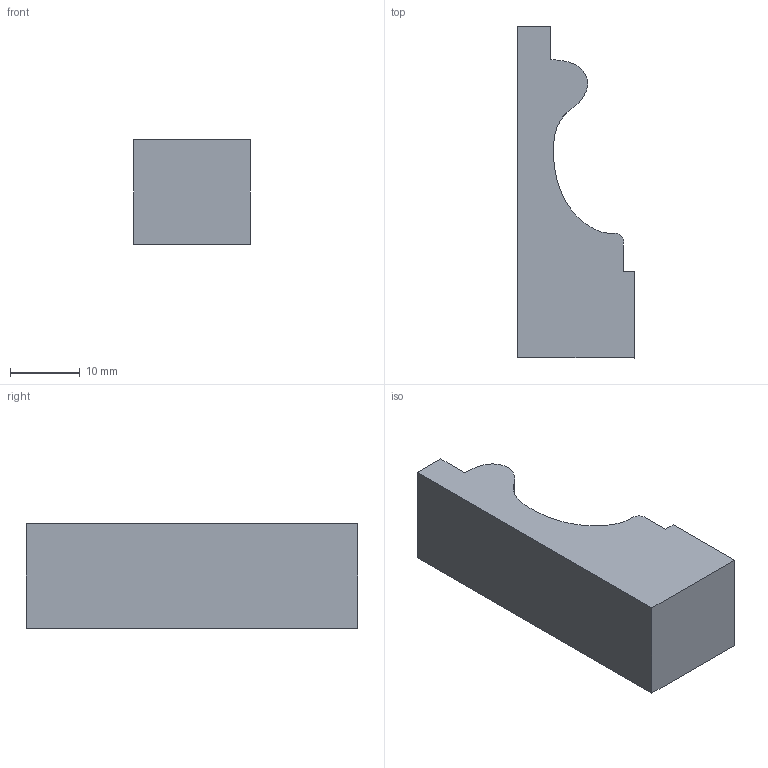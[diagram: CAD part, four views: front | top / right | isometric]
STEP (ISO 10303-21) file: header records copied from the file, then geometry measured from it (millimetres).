
FILE_DESCRIPTION (( 'STEP AP203' ), '1' );
FILE_NAME ('AB001FJ.STEP', '2024-02-08T21:29:00', ( '' ), ( '' ), 'SwSTEP 2.0', 'SolidWorks 2020', '' );
FILE_SCHEMA (( 'CONFIG_CONTROL_DESIGN' ));
Length unit declared in the file: millimetre
Products named in the file (1): AB001FJ
Bounding box: 16.77 x 47.64 x 15 mm (x, y, z)
Volume: 7444.1 mm3; surface area: 2926.2 mm2
Topology: 1 solids, 1 shells, 53 faces, 153 edges, 102 vertices
Faces by surface type: plane 52, cylinder 1
Entity records: 1786 total; most frequent: CARTESIAN_POINT 309, ORIENTED_EDGE 306, DIRECTION 263, EDGE_CURVE 153, LINE 151, VECTOR 151, VERTEX_POINT 102, AXIS2_PLACEMENT_3D 56
